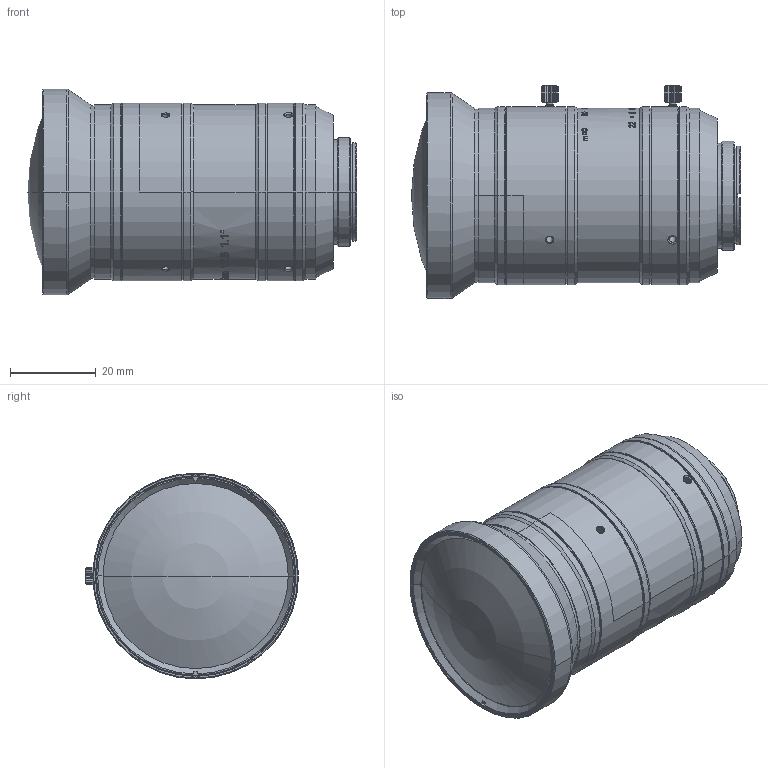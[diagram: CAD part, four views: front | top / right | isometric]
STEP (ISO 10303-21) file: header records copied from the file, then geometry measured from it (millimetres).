
FILE_DESCRIPTION((''),'2;1');
FILE_NAME('ASM0024_ASM','2020-11-26T11:52:23',('dihaoping'),(''),'CREO PARAMETRIC BY PTC INC, 2017260','CREO PARAMETRIC BY PTC INC, 2017260','');
FILE_SCHEMA(('CONFIG_CONTROL_DESIGN'));
Length unit declared in the file: millimetre
Products named in the file (16): MSBR-82_1_2_3; MSBR-81_1_2_3; MSBR-80_1_2_3; MSBR-79_1_2_3_4; MSBR-78_1_2_3_4; MSBR-77_1_2_3_4; MSBR-72_1; MSBR-71_1_2_3; MSBR-68_1_2; MSBR-67_1_2; MSBR-62_1_2; MSBR-61_1_2; MSBR-48_1; MSBR-47_1; 200_ASM_ASM_1_ASM; ASM0024_ASM
Assembly tree (15 placements, depth 3):
  ASM0024_ASM
    200_ASM_ASM_1_ASM
      MSBR-82_1_2_3
      MSBR-81_1_2_3
      MSBR-80_1_2_3
      MSBR-79_1_2_3_4
      MSBR-78_1_2_3_4
      MSBR-77_1_2_3_4
      MSBR-72_1
      MSBR-71_1_2_3
      MSBR-68_1_2
      MSBR-67_1_2
      MSBR-62_1_2
      MSBR-61_1_2
      MSBR-48_1
      MSBR-47_1
Bounding box: 76.75 x 49.7 x 48 mm (x, y, z)
Volume: 41038.7 mm3; surface area: 41674.5 mm2
Topology: 14 solids, 14 shells, 1388 faces, 3760 edges, 2473 vertices
Faces by surface type: bspline 540, plane 316, cylinder 289, cone 214, extrusion 13, sphere 12, torus 4
Entity records: 74587 total; most frequent: CARTESIAN_POINT 42773, ORIENTED_EDGE 7496, DIRECTION 5029, EDGE_CURVE 3748, VERTEX_POINT 2473, AXIS2_PLACEMENT_3D 1840, EDGE_LOOP 1525, B_SPLINE_CURVE_WITH_KNOTS 1465
